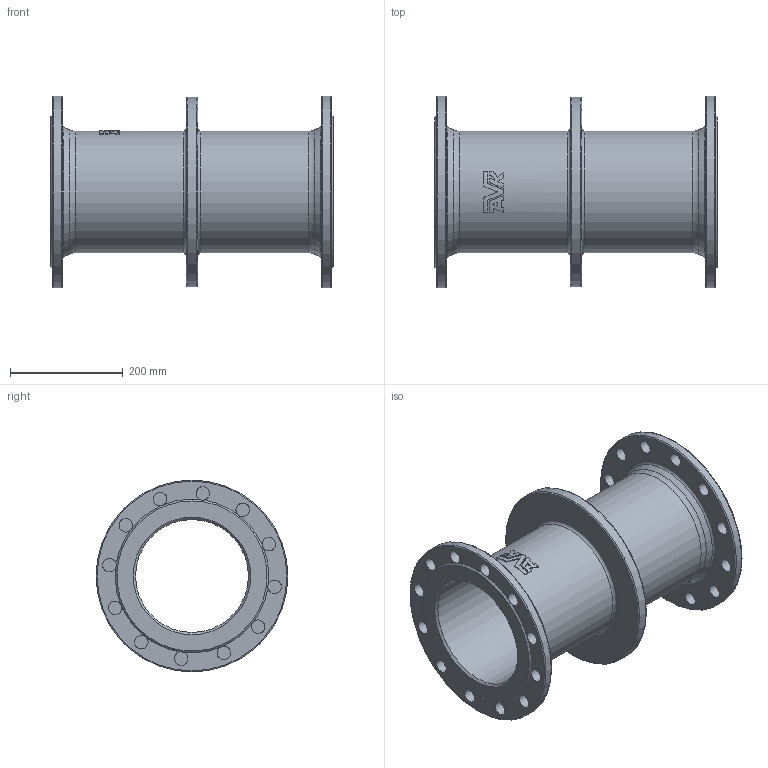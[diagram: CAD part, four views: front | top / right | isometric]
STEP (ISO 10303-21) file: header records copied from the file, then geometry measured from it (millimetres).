
FILE_DESCRIPTION (( 'STEP AP203' ), '1' );
FILE_NAME ('O_712_6010_DN200_1_AA0.step', '2019-07-09T09:33:29', ( 'Windows User' ), ( 'AVK' ), 'SwSTEP 2.0', 'SolidWorks 2012', '' );
FILE_SCHEMA (( 'CONFIG_CONTROL_DESIGN' ));
Length unit declared in the file: millimetre
Products named in the file (1): O_712_6010_DN200_1_AA0
Bounding box: 500 x 340 x 340 mm (x, y, z)
Volume: 5380372.5 mm3; surface area: 991360.3 mm2
Topology: 1 solids, 1 shells, 97 faces, 319 edges, 209 vertices
Faces by surface type: cylinder 34, plane 28, bspline 17, torus 12, cone 6
Full cylindrical faces by diameter (mm): 24 x24, 200 x1, 215 x2, 335.079 x1, 340 x2
Entity records: 4020 total; most frequent: CARTESIAN_POINT 1582, ORIENTED_EDGE 474, DIRECTION 446, EDGE_CURVE 237, AXIS2_PLACEMENT_3D 215, EDGE_LOOP 181, VERTEX_POINT 176, FACE_OUTER_BOUND 139
